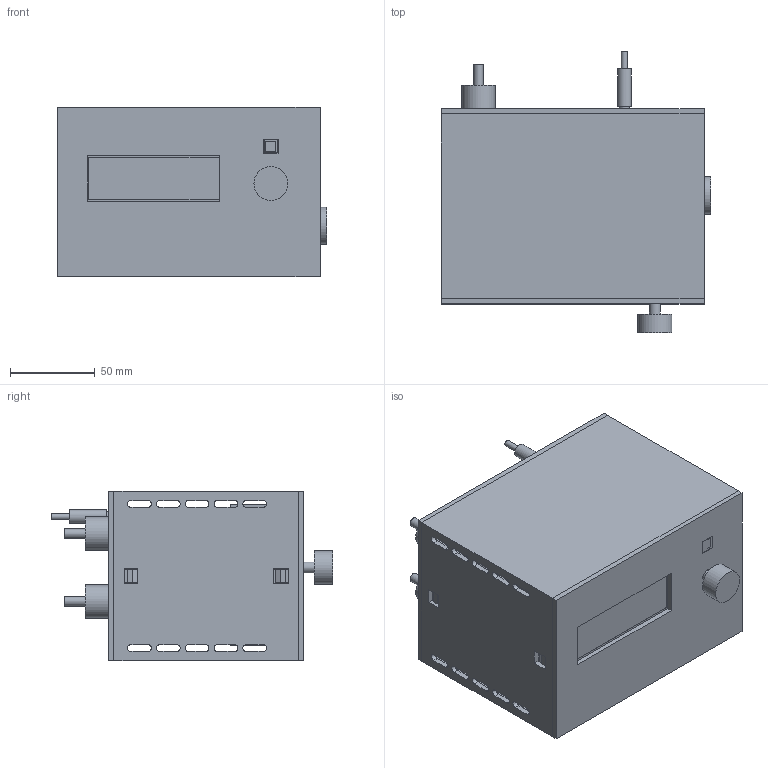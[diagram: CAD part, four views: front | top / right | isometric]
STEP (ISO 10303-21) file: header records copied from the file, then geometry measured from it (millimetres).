
FILE_DESCRIPTION(('Open CASCADE Model'),'2;1');
FILE_NAME('Open CASCADE Shape Model','2026-11-10T19:18:02',('Author'),( 'Open CASCADE'),'Open CASCADE STEP processor 7.8','Open CASCADE 7.8' ,'Unknown');
FILE_SCHEMA(('AUTOMOTIVE_DESIGN { 1 0 10303 214 1 1 1 1 }'));
Length unit declared in the file: millimetre
Products named in the file (115): Laboratory_controller_fit_study_v12; 01_Pieces_imprimees; 01_Shell_open_front_and_rear; 02_Removable_front_LCD_A; 03_B_removable_carrier; 04_Rear_panel_with_latches; 05_Translucent_optical_insert; 06_BH1750_removable_carrier; 02_Carte_A_reference; PCB_A; A_C1_ENVELOPE; A_C2_ENVELOPE; A_C3_ENVELOPE; A_D1_ENVELOPE; A_D2_ENVELOPE; A_J1_ENVELOPE; A_J10_ENVELOPE; A_J2_ENVELOPE; A_J3_ENVELOPE; A_J4_ENVELOPE; A_J5_ENVELOPE; A_J6_ENVELOPE; A_J7_ENVELOPE; A_JP1_ENVELOPE; A_R1_ENVELOPE; A_R2_ENVELOPE; A_R3_ENVELOPE; A_R4_ENVELOPE; A_R5_ENVELOPE; A_R6_ENVELOPE; A_R7_ENVELOPE; A_U2_ENVELOPE; A_DEVKIT_SOCKET_1; A_DEVKIT_MALE_HEADER_SPACER_1; A_DEVKIT_SOCKET_2; A_DEVKIT_MALE_HEADER_SPACER_2; A_DEVKIT_PCB_REFERENCE_54x27; A_DEVKIT_RF_SHIELD_ENVELOPE; A_DEVKIT_USB_BRIDGE_ENVELOPE; A_DEVKIT_USB_C_ENVELOPE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
Assembly tree (114 placements, depth 3):
  Laboratory_controller_fit_study_v12
    01_Pieces_imprimees
      01_Shell_open_front_and_rear
      02_Removable_front_LCD_A
      03_B_removable_carrier
      04_Rear_panel_with_latches
      05_Translucent_optical_insert
      06_BH1750_removable_carrier
    02_Carte_A_reference
      PCB_A
      A_C1_ENVELOPE
      A_C2_ENVELOPE
      A_C3_ENVELOPE
      A_D1_ENVELOPE
      A_D2_ENVELOPE
      A_J1_ENVELOPE
      A_J10_ENVELOPE
      A_J2_ENVELOPE
      A_J3_ENVELOPE
      A_J4_ENVELOPE
      A_J5_ENVELOPE
      A_J6_ENVELOPE
      A_J7_ENVELOPE
      A_JP1_ENVELOPE
      A_R1_ENVELOPE
      A_R2_ENVELOPE
      A_R3_ENVELOPE
      A_R4_ENVELOPE
      A_R5_ENVELOPE
      A_R6_ENVELOPE
      A_R7_ENVELOPE
      A_U2_ENVELOPE
      A_DEVKIT_SOCKET_1
      A_DEVKIT_MALE_HEADER_SPACER_1
      A_DEVKIT_SOCKET_2
      A_DEVKIT_MALE_HEADER_SPACER_2
      A_DEVKIT_PCB_REFERENCE_54x27
      A_DEVKIT_RF_SHIELD_ENVELOPE
      A_DEVKIT_USB_BRIDGE_ENVELOPE
      A_DEVKIT_USB_C_ENVELOPE
    03_Carte_B_reference
      PCB_B
      B_C1_ENVELOPE
      B_C10_ENVELOPE
      B_C2_ENVELOPE
      B_C3_ENVELOPE
      B_C4_ENVELOPE
      B_C5_ENVELOPE
      B_C6_ENVELOPE
      B_C7_ENVELOPE
      B_C8_ENVELOPE
      B_C9_ENVELOPE
      B_D2_ENVELOPE
      B_D3_ENVELOPE
      B_D4_ENVELOPE
      B_D5_ENVELOPE
      B_D6_ENVELOPE
      B_D7_ENVELOPE
      B_D8_ENVELOPE
      B_D9_ENVELOPE
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Bounding box: 159 x 166 x 100 mm (x, y, z)
Volume: 419997.6 mm3; surface area: 320722.7 mm2
Topology: 107 solids, 108 shells, 1224 faces, 2876 edges, 1905 vertices
Faces by surface type: plane 1136, cylinder 88
Full cylindrical faces by diameter (mm): 2.2 x12, 3 x3, 3.5 x2, 5.5 x2, 5.6 x1, 6 x2, 6.3 x3, 6.4 x1, 7.2 x1, 8 x2, 8.2 x1, 9 x1, 12 x4, 12.5 x2, 14 x1, 15 x2, 16 x1, 20 x5, 22 x2
Entity records: 73884 total; most frequent: CARTESIAN_POINT 13276, DIRECTION 10370, LINE 7109, VECTOR 7109, ORIENTED_EDGE 5752, PCURVE 5752, DEFINITIONAL_REPRESENTATION 5752, EDGE_CURVE 2876
